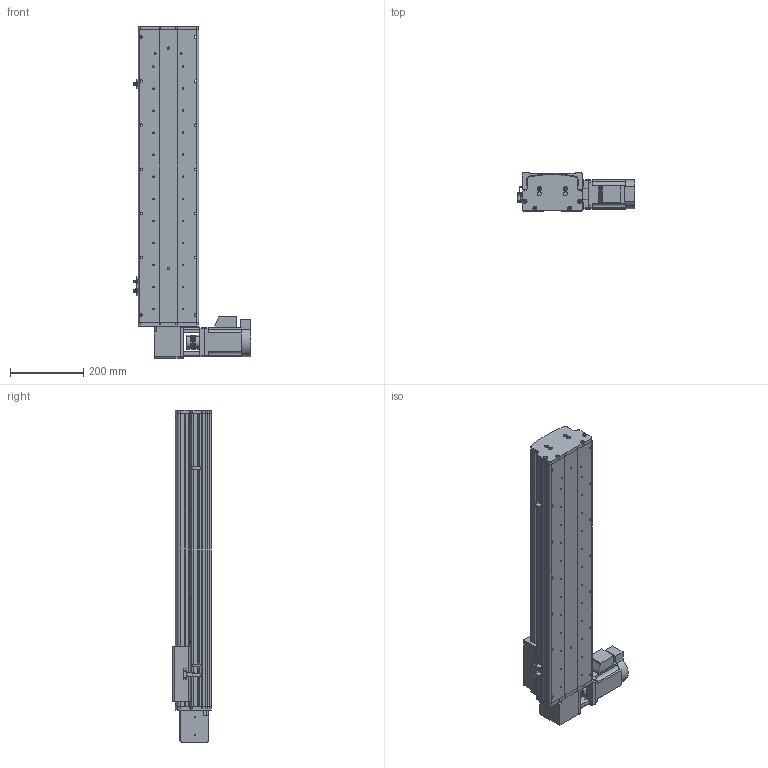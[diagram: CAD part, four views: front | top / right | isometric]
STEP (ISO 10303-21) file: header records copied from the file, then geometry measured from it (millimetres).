
FILE_DESCRIPTION (( 'STEP AP214' ), '1' );
FILE_NAME ('KSD165B-S550-MRT-CM.STEP', '2017-08-07T09:25:45', ( '微软用户' ), ( '微软中国' ), 'SwSTEP 2.0', 'SolidWorks 2014', '' );
FILE_SCHEMA (( 'AUTOMOTIVE_DESIGN' ));
Length unit declared in the file: millimetre
Products named in the file (16): KSD165模组-同步带防尘盖1-550行程-最新版; KSD165模组同步带底板-550行程-最新; 拸秶雄ん750W侜督萇儂; 165宽安装板同步带带电机座750W; 165宽马达安装板同步带右; C39ㄜ1419WP; U倰嫖萇假蚾璃; U倰嫖萇EEㄜSX672; 覜茼え68遵圉猾敕; KSD165模组-同步带-防撞垫2; KSD165模组同步带-防撞垫1; KSD165耀郪-ヶ傷啣1-肮祭湍; KSD165模组-后端板1-同步带; 130宽马达安装板1-带电机座750W（1）; KSD165模组-同步带滑动座-最新版; KSD165B-S550-MRT-CM
Assembly tree (19 placements, depth 2):
  KSD165B-S550-MRT-CM
    KSD165模组-同步带滑动座-最新版
    130宽马达安装板1-带电机座750W（1）
    KSD165模组-后端板1-同步带
    KSD165耀郪-ヶ傷啣1-肮祭湍
    KSD165模组同步带-防撞垫1
    KSD165模组-同步带-防撞垫2
    覜茼え68遵圉猾敕
    U倰嫖萇EEㄜSX672  x3
    U倰嫖萇假蚾璃  x3
    C39ㄜ1419WP
    165宽马达安装板同步带右
    165宽安装板同步带带电机座750W
    拸秶雄ん750W侜督萇儂
    KSD165模组同步带底板-550行程-最新
    KSD165模组-同步带防尘盖1-550行程-最新版
Bounding box: 321.2 x 104 x 904 mm (x, y, z)
Volume: 5856343.1 mm3; surface area: 1302120.1 mm2
Topology: 20 solids, 20 shells, 1442 faces, 4002 edges, 2589 vertices
Faces by surface type: cylinder 775, plane 573, cone 94
Entity records: 45383 total; most frequent: CARTESIAN_POINT 9521, DIRECTION 7076, ORIENTED_EDGE 6656, EDGE_CURVE 3328, AXIS2_PLACEMENT_3D 2680, VERTEX_POINT 2181, LINE 1716, VECTOR 1716
